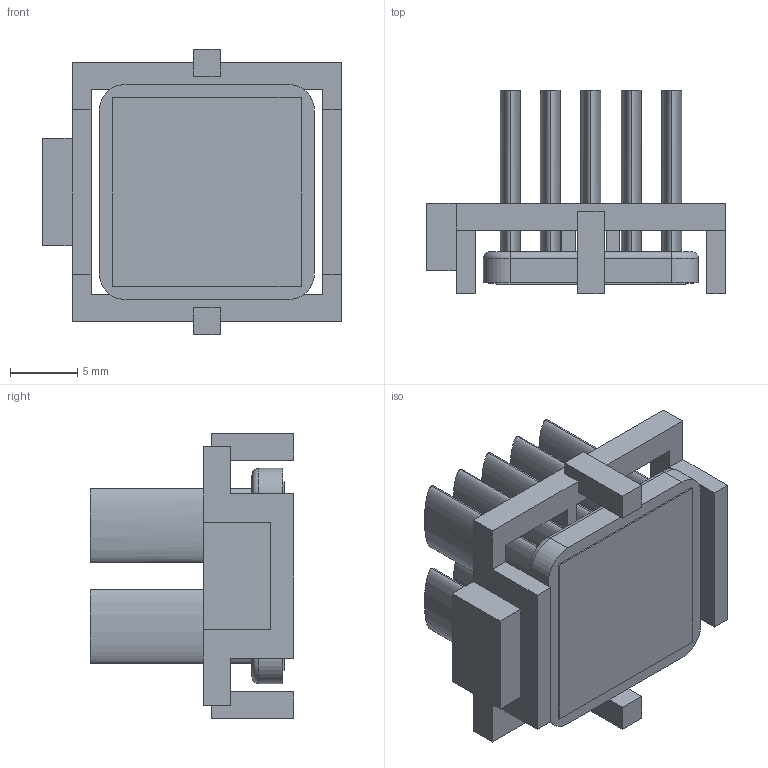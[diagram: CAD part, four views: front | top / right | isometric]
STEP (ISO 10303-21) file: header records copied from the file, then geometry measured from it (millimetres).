
FILE_DESCRIPTION (( 'STEP AP214' ), '1' );
FILE_NAME ('INM16001-14W-2.3BU.STEP', '2023-03-29T23:20:36', ( '' ), ( '' ), 'SwSTEP 2.0', 'SolidWorks 2020', '' );
FILE_SCHEMA (( 'AUTOMOTIVE_DESIGN' ));
Length unit declared in the file: millimetre
Products named in the file (1): INM16001-14W-2.3BU
Bounding box: 22.2 x 15.1 x 21.2 mm (x, y, z)
Volume: 1952.1 mm3; surface area: 3501.8 mm2
Topology: 3 solids, 3 shells, 99 faces, 244 edges, 160 vertices
Faces by surface type: plane 67, bspline 20, cylinder 8, torus 4
Entity records: 4079 total; most frequent: CARTESIAN_POINT 764, ORIENTED_EDGE 488, DIRECTION 384, EDGE_CURVE 244, VECTOR 184, LINE 184, VERTEX_POINT 160, EDGE_LOOP 110
